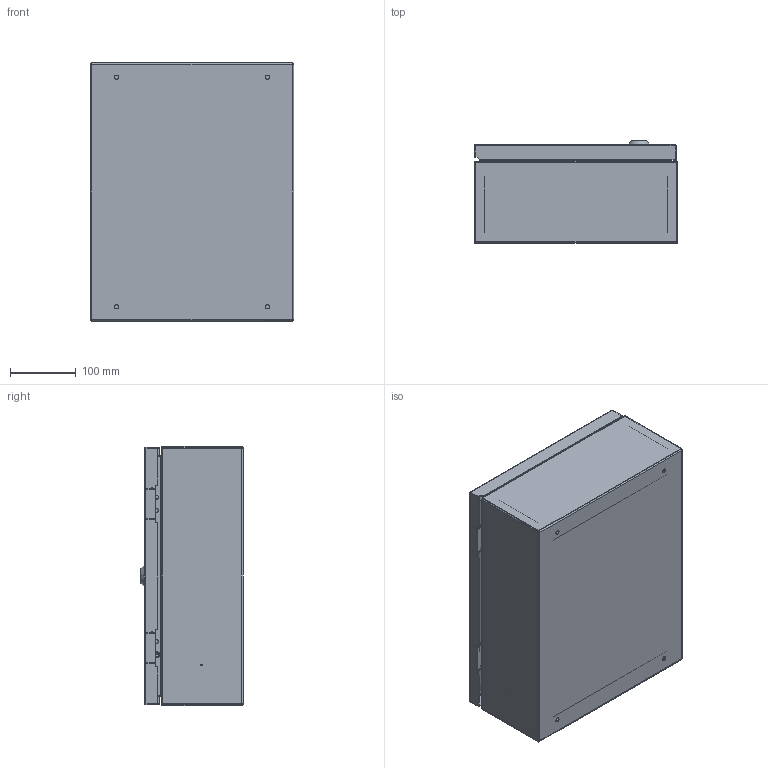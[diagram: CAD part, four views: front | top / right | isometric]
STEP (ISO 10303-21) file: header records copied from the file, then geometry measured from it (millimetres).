
FILE_DESCRIPTION (( 'STEP AP214' ), '1' );
FILE_NAME ('ÙÌÏ-1-1-395õ310õ150-IP54-ÓÕË2-ÊÝÀÇ.STEP', '2023-01-24T12:07:10', ( '' ), ( '' ), 'SwSTEP 2.0', 'SolidWorks 2018', '' );
FILE_SCHEMA (( 'AUTOMOTIVE_DESIGN' ));
Length unit declared in the file: millimetre
Products named in the file (1): ÙÌÏ-1-1-395õ310õ150-IP54-ÓÕË2-ÊÝÀÇ
Bounding box: 310 x 156.7 x 395 mm (x, y, z)
Surface area: 946810.2 mm2 (no closed solid volume)
Topology: 0 solids, 30 shells, 210 faces, 713 edges, 515 vertices
Faces by surface type: plane 101, cylinder 73, bspline 22, torus 10, sphere 2, cone 2
Entity records: 11361 total; most frequent: CARTESIAN_POINT 3033, DIRECTION 1231, ORIENTED_EDGE 1046, EDGE_CURVE 713, VERTEX_POINT 515, VECTOR 421, LINE 421, AXIS2_PLACEMENT_3D 405
